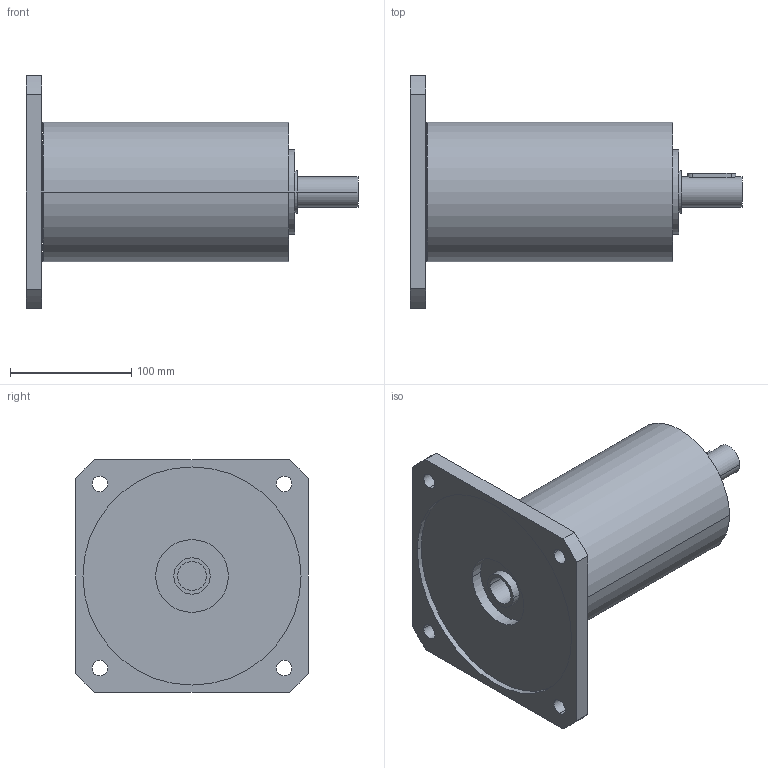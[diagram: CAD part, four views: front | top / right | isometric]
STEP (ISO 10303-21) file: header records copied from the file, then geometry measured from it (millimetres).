
FILE_DESCRIPTION(('CoCreate Modeling STEP Export'),'2;1');
FILE_NAME('GPR125_ig-48-64-80-100-140-196-245-343_25_B14_24_P09.stp','2014-08-26T14:22:30',(''),(''),'CoCreate Modeling STEP processor for AP214 (Solid Model)','CoCreate Modeling 16.00C 25-Feb-2009 (C) Parametric Technology GmbH','');
FILE_SCHEMA(('AUTOMOTIVE_DESIGN { 1 0 10303 214 1 1 1 1 }'));
Length unit declared in the file: millimetre
Products named in the file (2): GPR125_ig-48-64-80-100-140-196-245-343_25_B14_24_P09
Assembly tree (1 placements, depth 2):
  GPR125_ig-48-64-80-100-140-196-245-343_25_B14_24_P09
    GPR125_ig-48-64-80-100-140-196-245-343_25_B14_24_P09
Bounding box: 274 x 192 x 192 mm (x, y, z)
Volume: 2458250.7 mm3; surface area: 187329.2 mm2
Topology: 1 solids, 1 shells, 68 faces, 188 edges, 134 vertices
Faces by surface type: cylinder 42, plane 22, cone 4
Entity records: 1928 total; most frequent: ORIENTED_EDGE 372, CARTESIAN_POINT 363, DIRECTION 258, EDGE_CURVE 186, VERTEX_POINT 134, AXIS2_PLACEMENT_3D 97, EDGE_LOOP 90, FACE_OUTER_BOUND 68
